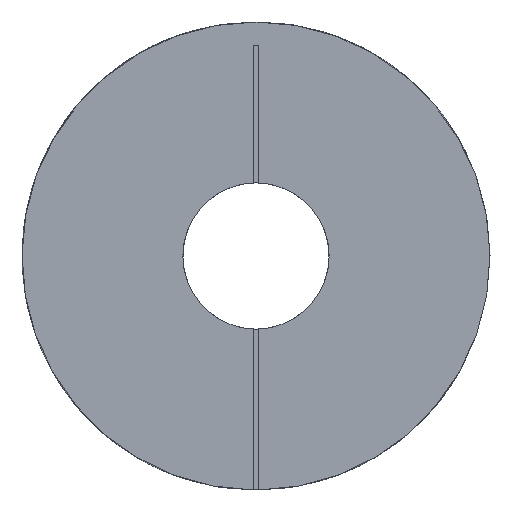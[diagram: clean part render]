
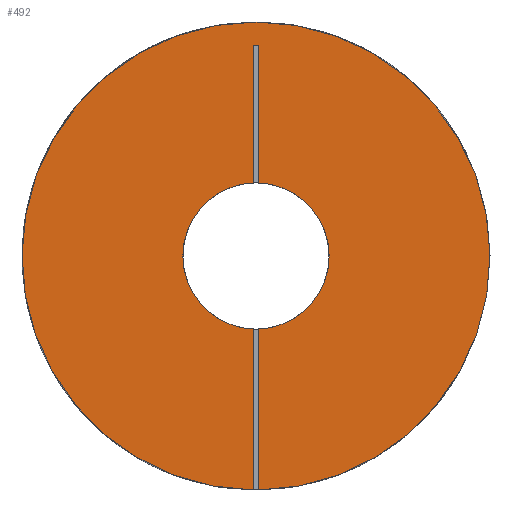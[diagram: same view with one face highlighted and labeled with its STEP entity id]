
A CAD part, left-side view. The second image highlights one B-rep face of the part: STEP entity #492.
In plain terms, the highlighted planar face has unit normal (-1, 0, 0).
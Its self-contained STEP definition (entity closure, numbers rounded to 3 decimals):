
#188 = EDGE_CURVE ( 'NONE', #478, #500, #858, .T. ) ;
#189 = ORIENTED_EDGE ( 'NONE', *, *, #188, .F. ) ;
#407 = VERTEX_POINT ( 'NONE', #1290 ) ;
#409 = EDGE_CURVE ( 'NONE', #407, #410, #1289, .T. ) ;
#410 = VERTEX_POINT ( 'NONE', #1284 ) ;
#464 = VERTEX_POINT ( 'NONE', #1420 ) ;
#466 = EDGE_CURVE ( 'NONE', #464, #467, #1419, .T. ) ;
#467 = VERTEX_POINT ( 'NONE', #1414 ) ;
#478 = VERTEX_POINT ( 'NONE', #1403 ) ;
#479 = ORIENTED_EDGE ( 'NONE', *, *, #480, .F. ) ;
#480 = EDGE_CURVE ( 'NONE', #410, #478, #1402, .T. ) ;
#481 = ORIENTED_EDGE ( 'NONE', *, *, #409, .F. ) ;
#482 = ORIENTED_EDGE ( 'NONE', *, *, #483, .F. ) ;
#483 = EDGE_CURVE ( 'NONE', #504, #407, #1434, .T. ) ;
#484 = ORIENTED_EDGE ( 'NONE', *, *, #503, .F. ) ;
#485 = ORIENTED_EDGE ( 'NONE', *, *, #466, .F. ) ;
#492 = ADVANCED_FACE ( 'NONE', ( #1495 ), #1494, .F. ) ;
#493 = EDGE_LOOP ( 'NONE', ( #494, #498, #189, #479, #481, #482, #484, #485, #2190 ) ) ;
#494 = ORIENTED_EDGE ( 'NONE', *, *, #495, .F. ) ;
#495 = EDGE_CURVE ( 'NONE', #496, #497, #1489, .T. ) ;
#496 = VERTEX_POINT ( 'NONE', #1484 ) ;
#497 = VERTEX_POINT ( 'NONE', #1483 ) ;
#498 = ORIENTED_EDGE ( 'NONE', *, *, #499, .F. ) ;
#499 = EDGE_CURVE ( 'NONE', #500, #496, #1482, .T. ) ;
#500 = VERTEX_POINT ( 'NONE', #1478 ) ;
#503 = EDGE_CURVE ( 'NONE', #467, #504, #1477, .T. ) ;
#504 = VERTEX_POINT ( 'NONE', #1472 ) ;
#855 = DIRECTION ( 'NONE',  ( 0., 1., 0. ) ) ;
#856 = VECTOR ( 'NONE', #855, 1000. ) ;
#857 = CARTESIAN_POINT ( 'NONE',  ( 0., 0.1, 7.2 ) ) ;
#858 = LINE ( 'NONE', #857, #856 ) ;
#1284 = CARTESIAN_POINT ( 'NONE',  ( 0., -0.1, 2.498 ) ) ;
#1285 = DIRECTION ( 'NONE',  ( 0., 0., 1. ) ) ;
#1286 = DIRECTION ( 'NONE',  ( -1., 0., 0. ) ) ;
#1287 = CARTESIAN_POINT ( 'NONE',  ( 0., 0., 0. ) ) ;
#1288 = AXIS2_PLACEMENT_3D ( 'NONE', #1287, #1286, #1285 ) ;
#1289 = CIRCLE ( 'NONE', #1288, 2.5 ) ;
#1290 = CARTESIAN_POINT ( 'NONE',  ( 0., -0.1, -2.498 ) ) ;
#1401 = CARTESIAN_POINT ( 'NONE',  ( 0., -0.1, -7.999 ) ) ;
#1402 = LINE ( 'NONE', #1401, #1436 ) ;
#1403 = CARTESIAN_POINT ( 'NONE',  ( 0., -0.1, 7.2 ) ) ;
#1414 = CARTESIAN_POINT ( 'NONE',  ( 0., 0., 8. ) ) ;
#1415 = DIRECTION ( 'NONE',  ( 0., 0., -1. ) ) ;
#1416 = DIRECTION ( 'NONE',  ( 1., 0., 0. ) ) ;
#1417 = CARTESIAN_POINT ( 'NONE',  ( 0., 0., 0. ) ) ;
#1418 = AXIS2_PLACEMENT_3D ( 'NONE', #1417, #1416, #1415 ) ;
#1419 = CIRCLE ( 'NONE', #1418, 8. ) ;
#1420 = CARTESIAN_POINT ( 'NONE',  ( 0., 0.1, -7.999 ) ) ;
#1431 = DIRECTION ( 'NONE',  ( 0., 0., 1. ) ) ;
#1432 = VECTOR ( 'NONE', #1431, 1000. ) ;
#1433 = CARTESIAN_POINT ( 'NONE',  ( 0., -0.1, -7.999 ) ) ;
#1434 = LINE ( 'NONE', #1433, #1432 ) ;
#1435 = DIRECTION ( 'NONE',  ( 0., 0., 1. ) ) ;
#1436 = VECTOR ( 'NONE', #1435, 1000. ) ;
#1472 = CARTESIAN_POINT ( 'NONE',  ( 0., -0.1, -7.999 ) ) ;
#1473 = DIRECTION ( 'NONE',  ( 0., 0., -1. ) ) ;
#1474 = DIRECTION ( 'NONE',  ( 1., 0., 0. ) ) ;
#1475 = CARTESIAN_POINT ( 'NONE',  ( 0., 0., 0. ) ) ;
#1476 = AXIS2_PLACEMENT_3D ( 'NONE', #1475, #1474, #1473 ) ;
#1477 = CIRCLE ( 'NONE', #1476, 8. ) ;
#1478 = CARTESIAN_POINT ( 'NONE',  ( 0., 0.1, 7.2 ) ) ;
#1479 = DIRECTION ( 'NONE',  ( 0., 0., -1. ) ) ;
#1480 = VECTOR ( 'NONE', #1479, 1000. ) ;
#1481 = CARTESIAN_POINT ( 'NONE',  ( 0., 0.1, -7.999 ) ) ;
#1482 = LINE ( 'NONE', #1481, #1480 ) ;
#1483 = CARTESIAN_POINT ( 'NONE',  ( 0., 0.1, -2.498 ) ) ;
#1484 = CARTESIAN_POINT ( 'NONE',  ( 0., 0.1, 2.498 ) ) ;
#1485 = DIRECTION ( 'NONE',  ( 0., 0., 1. ) ) ;
#1486 = DIRECTION ( 'NONE',  ( -1., 0., 0. ) ) ;
#1487 = CARTESIAN_POINT ( 'NONE',  ( 0., 0., 0. ) ) ;
#1488 = AXIS2_PLACEMENT_3D ( 'NONE', #1487, #1486, #1485 ) ;
#1489 = CIRCLE ( 'NONE', #1488, 2.5 ) ;
#1490 = DIRECTION ( 'NONE',  ( 0., 0., -1. ) ) ;
#1491 = DIRECTION ( 'NONE',  ( 1., 0., 0. ) ) ;
#1492 = CARTESIAN_POINT ( 'NONE',  ( 0., 0., 0. ) ) ;
#1493 = AXIS2_PLACEMENT_3D ( 'NONE', #1492, #1491, #1490 ) ;
#1494 = PLANE ( 'NONE',  #1493 ) ;
#1495 = FACE_OUTER_BOUND ( 'NONE', #493, .T. ) ;
#1706 = DIRECTION ( 'NONE',  ( 0., 0., -1. ) ) ;
#1707 = VECTOR ( 'NONE', #1706, 1000. ) ;
#1708 = CARTESIAN_POINT ( 'NONE',  ( 0., 0.1, -7.999 ) ) ;
#1709 = LINE ( 'NONE', #1708, #1707 ) ;
#2187 = EDGE_CURVE ( 'NONE', #497, #464, #1709, .T. ) ;
#2190 = ORIENTED_EDGE ( 'NONE', *, *, #2187, .F. ) ;
